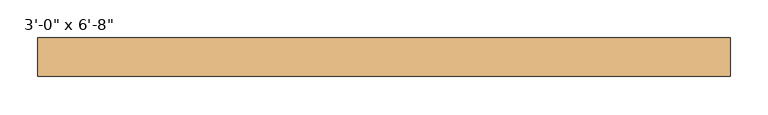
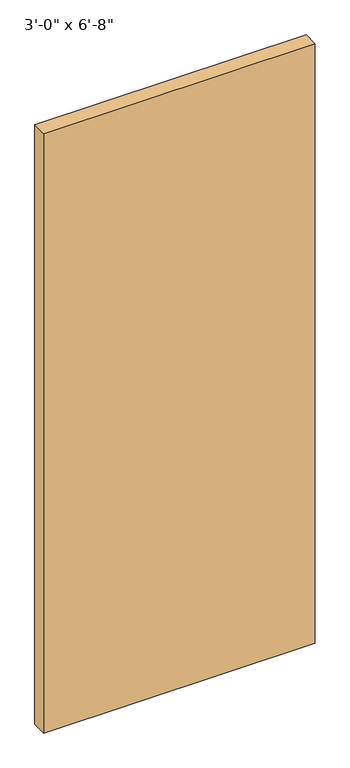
"""IFC4 building model written with IfcOpenShell, lengths in millimetres: door geometry."""

import ifcopenshell
import ifcopenshell.guid

model = None  # the IFC model being written
_history = None  # IfcOwnerHistory: only IFC2X3 demands one
_inside = {}  # id of a spatial element -> (the spatial element, [elements in it])
_under = {}  # id of a project, library or spatial element -> (it, [spatial elements below it])
_declared = {}  # id of a project -> (the project, [libraries it declares])
_typed = {}  # id of a type object -> (the type object, [elements of that type])
_made_of = {}  # id of a material, layer set ... -> (it, [elements and type objects made of it])


def new_model(schema):
    """Start an empty IFC model of exactly this schema.

    Asked for "IFC4X3", IfcOpenShell would pick the latest addendum, in which some entities
    have other attributes; the version numbers below select the first issue.
    IFC2X3 requires an IfcOwnerHistory on every rooted entity: one is made here for all.
    """
    global model, _history
    if schema == "IFC4X3":
        model = ifcopenshell.file(schema_version=(4, 3, 0, 0))
    else:
        model = ifcopenshell.file(schema=schema)
    _inside.clear()
    _under.clear()
    _declared.clear()
    _typed.clear()
    _made_of.clear()
    _history = None
    if model.schema == "IFC2X3":
        org = make("IfcOrganization", Name="unknown")
        user = make(
            "IfcPersonAndOrganization",
            ThePerson=make("IfcPerson", FamilyName="unknown"),
            TheOrganization=org,
        )
        app = make(
            "IfcApplication",
            ApplicationDeveloper=org,
            Version="unknown",
            ApplicationFullName="unknown",
            ApplicationIdentifier="unknown",
        )
        _history = make(
            "IfcOwnerHistory",
            OwningUser=user,
            OwningApplication=app,
            ChangeAction="ADDED",
            CreationDate=0,
        )
    return model


def make(cls, **values):
    """One entity of the class cls with the attributes given. An attribute that is None is left unset."""
    return model.create_entity(
        cls, **{name: value for name, value in values.items() if value is not None}
    )


def rooted(cls, **values):
    """An entity with a GlobalId (a new one), such as an element, a storey or a relation."""
    return make(cls, GlobalId=ifcopenshell.guid.new(), OwnerHistory=_history, **values)


def si_unit(unit_type, name, prefix=None):
    """IfcSIUnit, for example si_unit("LENGTHUNIT", "METRE", prefix="MILLI")."""
    return make("IfcSIUnit", UnitType=unit_type, Prefix=prefix, Name=name)


def assignment(units):
    """IfcUnitAssignment: the units of a project."""
    return None if units is None else make("IfcUnitAssignment", Units=units)


def point(xyz):
    """IfcCartesianPoint."""
    return None if xyz is None else make("IfcCartesianPoint", Coordinates=xyz)


def direction(xyz):
    """IfcDirection."""
    return None if xyz is None else make("IfcDirection", DirectionRatios=xyz)


def frame(location, z_axis=None, x_axis=None):
    """IfcAxis2Placement3D, a coordinate frame: its origin and axes. An axis left out is left unset."""
    return make(
        "IfcAxis2Placement3D",
        Location=point(location),
        Axis=direction(z_axis),
        RefDirection=direction(x_axis),
    )


def origin():
    """The frame at (0, 0, 0) with its axes left unset."""
    return frame((0.0, 0.0, 0.0))


def origin_with_axes():
    """The frame at (0, 0, 0) with the z axis (0, 0, 1) and the x axis (1, 0, 0) written out."""
    return frame((0.0, 0.0, 0.0), z_axis=(0.0, 0.0, 1.0), x_axis=(1.0, 0.0, 0.0))


def place(relative_to, where):
    """IfcLocalPlacement: puts the frame where relative to a parent placement (None: the world)."""
    return make(
        "IfcLocalPlacement", PlacementRelTo=relative_to, RelativePlacement=where
    )


def context(
    kind, dimensions, precision=None, world=None, true_north=None, identifier=None
):
    """IfcGeometricRepresentationContext, for example the 3D "Model" context."""
    return make(
        "IfcGeometricRepresentationContext",
        ContextIdentifier=identifier,
        ContextType=kind,
        CoordinateSpaceDimension=dimensions,
        Precision=precision,
        WorldCoordinateSystem=world,
        TrueNorth=true_north,
    )


def project(units=None, contexts=None):
    """IfcProject with its units and contexts."""
    return rooted(
        "IfcProject",
        Name="project",
        RepresentationContexts=contexts,
        UnitsInContext=assignment(units),
    )


def spatial(cls, under=None, at=None, **own):
    """A site, building, storey or space (cls), placed at a placement, below another one or the project."""
    s = rooted(cls, ObjectPlacement=at, **own)
    if under is not None:
        _under.setdefault(under.id(), (under, []))[1].append(s)
    return s


def polyline(points):
    """IfcPolyline through the points."""
    return make("IfcPolyline", Points=[point(p) for p in points])


def outline(outer, holes=None, kind="AREA"):
    """IfcArbitraryClosedProfileDef: a profile drawn as a closed curve; with holes, ...WithVoids."""
    if holes is None:
        return make("IfcArbitraryClosedProfileDef", ProfileType=kind, OuterCurve=outer)
    return make(
        "IfcArbitraryProfileDefWithVoids",
        ProfileType=kind,
        OuterCurve=outer,
        InnerCurves=holes,
    )


def extrude(swept, where, along, depth):
    """IfcExtrudedAreaSolid: the profile swept, set in the frame where, extruded along a direction by depth."""
    return make(
        "IfcExtrudedAreaSolid",
        SweptArea=swept,
        Position=where,
        ExtrudedDirection=direction(along),
        Depth=depth,
    )


def shape(context_of_items, identifier, shape_type, items):
    """IfcShapeRepresentation: the items that make up one representation, for example the "Body"."""
    return make(
        "IfcShapeRepresentation",
        ContextOfItems=context_of_items,
        RepresentationIdentifier=identifier,
        RepresentationType=shape_type,
        Items=items,
    )


def source(mapping_origin, context_of_items, identifier, shape_type, items):
    """IfcRepresentationMap: a shape defined once, which mapped items show again and again."""
    return make(
        "IfcRepresentationMap",
        MappingOrigin=mapping_origin,
        MappedRepresentation=shape(context_of_items, identifier, shape_type, items),
    )


def transform(
    local_origin,
    x_axis=None,
    y_axis=None,
    z_axis=None,
    scale=None,
    scale2=None,
    scale3=None,
    uniform=True,
):
    """IfcCartesianTransformationOperator3D, or its non-uniform kind. x_axis, y_axis, z_axis: its Axis1, 2, 3."""
    if uniform:
        return make(
            "IfcCartesianTransformationOperator3D",
            Axis1=direction(x_axis),
            Axis2=direction(y_axis),
            LocalOrigin=point(local_origin),
            Scale=scale,
            Axis3=direction(z_axis),
        )
    return make(
        "IfcCartesianTransformationOperator3DnonUniform",
        Axis1=direction(x_axis),
        Axis2=direction(y_axis),
        LocalOrigin=point(local_origin),
        Scale=scale,
        Axis3=direction(z_axis),
        Scale2=scale2,
        Scale3=scale3,
    )


def mapped(mapping_source, mapping_target):
    """IfcMappedItem: shows the shape of a source again, moved by a transform."""
    return make(
        "IfcMappedItem", MappingSource=mapping_source, MappingTarget=mapping_target
    )


def made_of(thing, what):
    """Note that an element or type object is made of a material, layer set ...; save() writes the relation."""
    if what is not None:
        _made_of.setdefault(what.id(), (what, []))[1].append(thing)
    return thing


def element(
    cls,
    number,
    at=None,
    inside=None,
    cuts=None,
    type_object=None,
    material=None,
    context=None,
    identifier="Body",
    shape_type=None,
    held_by="IfcProductDefinitionShape",
    body=None,
    shapes=None,
    **own,
):
    """One element of the class cls, such as IfcWall. Its Tag is "e" and its number.

    at: its placement. inside: the storey or other place that contains it. cuts: it is an
    opening in that element (IfcRelVoidsElement). A single representation is given by context,
    identifier, shape_type and body (its items); several are given by shapes. held_by: the class
    of the entity that holds the representations. save() writes the other relations.
    """
    e = rooted(cls, Tag="e%d" % number, ObjectPlacement=at, **own)
    if body is not None:
        shapes = [shape(context, identifier, shape_type, body)]
    if shapes is not None:
        e.Representation = make(held_by, Representations=shapes)
    if inside is not None:
        _inside.setdefault(inside.id(), (inside, []))[1].append(e)
    if cuts is not None:
        rooted(
            "IfcRelVoidsElement", RelatingBuildingElement=cuts, RelatedOpeningElement=e
        )
    if type_object is not None:
        _typed.setdefault(type_object.id(), (type_object, []))[1].append(e)
    return made_of(e, material)


def aggregate(whole, parts):
    """IfcRelAggregates: a whole, such as a stair, and the parts it consists of."""
    return rooted("IfcRelAggregates", RelatingObject=whole, RelatedObjects=parts)


def save(model, path):
    """Write the relations noted so far, then the file.

    IfcRelAggregates (storeys below a building ...), IfcRelContainedInSpatialStructure (elements
    in a storey), IfcRelDefinesByType, IfcRelAssociatesMaterial and IfcRelDeclares: one each for
    every whole, place, type object, material and project.
    """
    for whole, parts in _under.values():
        aggregate(whole, parts)
    for where, things in _inside.values():
        rooted(
            "IfcRelContainedInSpatialStructure",
            RelatedElements=things,
            RelatingStructure=where,
        )
    for kind, things in _typed.values():
        rooted("IfcRelDefinesByType", RelatedObjects=things, RelatingType=kind)
    for what, things in _made_of.values():
        rooted("IfcRelAssociatesMaterial", RelatedObjects=things, RelatingMaterial=what)
    for by, libraries in _declared.values():
        rooted("IfcRelDeclares", RelatingContext=by, RelatedDefinitions=libraries)
    model.write(path)


def door_d5a2d4af(model_context):
    return source(origin(), model_context, "Body", "SweptSolid", [
        extrude(outline(polyline([(457.5, 101.4), (-457.5, 101.4), (-457.5, 152.4), (457.5, 152.4), (457.5, 101.4)])), origin_with_axes(), (0.0, 0.0, 1.0), 2133.6),
    ])


if __name__ == "__main__":
    model = new_model("IFC4")
    model_context = context("Model", 3, world=origin())
    ifc_project = project(units=[si_unit("LENGTHUNIT", "METRE", prefix="MILLI")], contexts=[model_context])
    site = spatial("IfcSite", under=ifc_project)
    building = spatial("IfcBuilding", under=site)
    placement = place(None, origin())
    door_shape = door_d5a2d4af(model_context)
    element("IfcDoor", 1, ObjectType="Planitar - Single Door_Flush Panel : 3'-0\" x 6'-8\"", at=placement, inside=building, context=model_context, shape_type="MappedRepresentation", body=[
        mapped(door_shape, transform((0.0, 0.0, 0.0), x_axis=(1.0, 0.0, 0.0), y_axis=(0.0, 1.0, 0.0), z_axis=(0.0, 0.0, 1.0))),
    ])
    save(model, "model.ifc")
